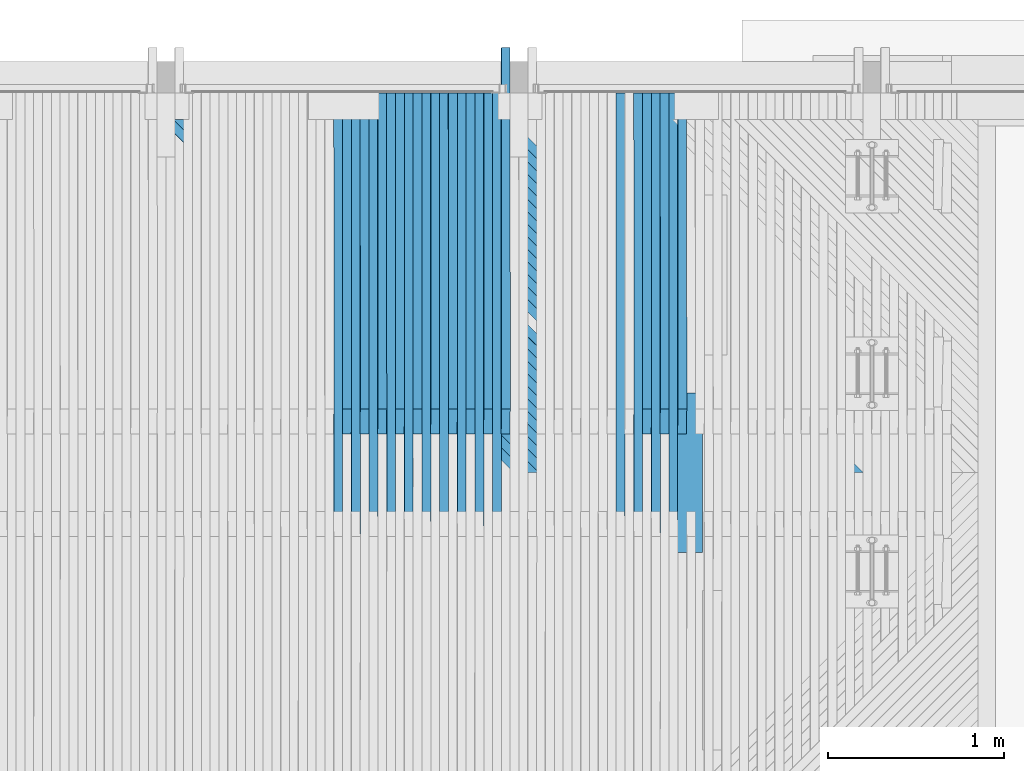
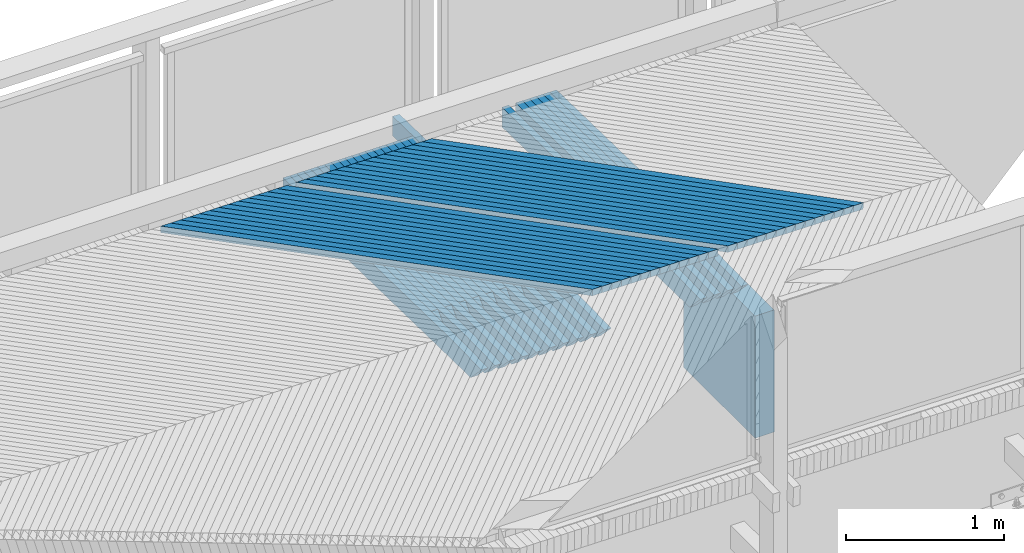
# One storey, part 44 of 65: 55 beams.
"""IFC2X3 building model written with IfcOpenShell, lengths in millimetres."""

from ifc_helpers import new_model, si_unit, frame, origin_with_axes, place, context, subcontext, project, spatial, faceted_brep, material, type_object, element, save


model = new_model("IFC2X3")

# Units and contexts
model_context = context("Model", 3, precision=1e-05, world=origin_with_axes())
body_context = subcontext(model_context, "Body", "Model", "MODEL_VIEW")
ifc_project = project(units=[si_unit("LENGTHUNIT", "METRE", prefix="MILLI"), si_unit("AREAUNIT", "SQUARE_METRE"), si_unit("VOLUMEUNIT", "CUBIC_METRE"), si_unit("MASSUNIT", "GRAM", prefix="KILO"), si_unit("TIMEUNIT", "SECOND"), si_unit("PLANEANGLEUNIT", "RADIAN"), si_unit("SOLIDANGLEUNIT", "STERADIAN"), si_unit("THERMODYNAMICTEMPERATUREUNIT", "DEGREE_CELSIUS"), si_unit("LUMINOUSINTENSITYUNIT", "LUMEN")], contexts=[model_context])

# Site, building, storey
site_placement = place(None, origin_with_axes())
site = spatial("IfcSite", under=ifc_project, at=site_placement, Name="Undefined", CompositionType="ELEMENT")
building_placement = place(site_placement, origin_with_axes())
building = spatial("IfcBuilding", under=site, at=building_placement, Name="Undefined", CompositionType="ELEMENT")
storey_placement = place(building_placement, origin_with_axes())
storey = spatial("IfcBuildingStorey", under=building, at=storey_placement, Name="Undefined", CompositionType="ELEMENT", Elevation=0.0)

# Beams
ifc_material = material(Name="TIMBER/Timber_Undefined")
beam_type_1 = type_object("IfcBeamType", Name="945*140", PredefinedType="NOTDEFINED")
beam_1_placement = place(storey_placement, frame((14969.0, 22817.5, 2502.2279002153), z_axis=(0.0, 0.0, 1.0), x_axis=(0.0, -1.0, 0.0)))
element("IfcBeam", 1, at=beam_1_placement, inside=storey, type_object=beam_type_1, material=ifc_material, Name="PALKKI", ObjectType="945*140", context=body_context, shape_type="Brep", body=[
    faceted_brep([(0.0, 70.0, -472.5), (0.0, 70.0, 472.5), (905.0, 70.0, 472.5), (905.0, 70.0, -472.5), (0.0, -70.0, 472.5), (905.0, -70.0, 472.5), (0.0, -70.0, -472.5), (905.0, -70.0, -472.5)], [[[0, 1, 2, 3]], [[1, 4, 5, 2]], [[4, 6, 7, 5]], [[6, 0, 3, 7]], [[5, 7, 3, 2]], [[6, 4, 1, 0]]]),
])
beam_type_2 = type_object("IfcBeamType", Name="50*50", PredefinedType="NOTDEFINED")
for number, where, z_axis, x_axis, name in (
    (2, (15915.2442465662, 22365.4998996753, 3184.09352561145), (0.706884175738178, 0.706981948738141, -0.0221649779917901), (-0.707238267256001, 0.706948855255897, -0.00611141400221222), "BEAM"),
    (3, (15844.5260699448, 22365.4998996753, 3185.01910211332), (0.706886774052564, 0.706981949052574, -0.0220819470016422), (-0.707237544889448, 0.706948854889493, -0.00619448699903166), "BEAM"),
    (4, (15773.8077850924, 22365.4998996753, 3185.93637200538), (0.706889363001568, 0.70698194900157, -0.021998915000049), (-0.707236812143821, 0.706948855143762, -0.00627756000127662), "BEAM"),
    (5, (15703.0893929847, 22365.4998996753, 3186.8453352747), (0.70689194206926, 0.706981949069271, -0.0219158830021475), (-0.707236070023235, 0.706948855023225, -0.00636063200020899), "BEAM"),
    (6, (15632.3708945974, 22365.4998996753, 3187.74599190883), (0.706894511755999, 0.706981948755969, -0.021832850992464), (-0.707235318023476, 0.706948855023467, -0.00644370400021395), "BEAM"),
    (7, (15561.6522909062, 22365.4998996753, 3188.6383418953), (0.706897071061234, 0.706981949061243, -0.0217498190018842), (-0.707234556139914, 0.706948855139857, -0.00652677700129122), "BEAM"),
    (8, (15490.9335828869, 22365.4998996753, 3189.52238522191), (0.706899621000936, 0.706981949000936, -0.0216667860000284), (-0.707233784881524, 0.706948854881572, -0.00660984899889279), "BEAM"),
    (9, (15420.2147715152, 22365.4998996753, 3190.39812187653), (0.706902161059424, 0.706981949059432, -0.0215837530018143), (-0.707233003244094, 0.706948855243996, -0.00669292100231), "BEAM"),
    (10, (15349.4958577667, 22365.4998996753, 3191.26555184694), (0.706904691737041, 0.706981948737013, -0.021500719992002), (-0.707232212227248, 0.706948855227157, -0.00677599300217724), "BEAM"),
    (11, (15278.7768426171, 22365.4998996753, 3192.12467512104), (0.706907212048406, 0.706981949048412, -0.0214176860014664), (-0.707231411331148, 0.706948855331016, -0.0068590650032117), "BEAM"),
    (12, (15208.0577270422, 22365.4998996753, 3192.97549168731), (0.706909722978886, 0.706981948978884, -0.0213346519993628), (-0.707230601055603, 0.706948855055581, -0.00694213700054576), "BEAM"),
    (13, (15137.3385120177, 22365.4998996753, 3193.81800153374), (0.706912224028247, 0.706981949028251, -0.021251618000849), (-0.70722978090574, 0.706948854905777, -0.00702520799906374), "BEAM"),
    (14, (15066.6191985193, 22365.4998996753, 3194.65220464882), (0.706914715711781, 0.706981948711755, -0.0211685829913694), (-0.707228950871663, 0.706948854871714, -0.00710827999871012), "BEAM"),
    (15, (14995.8997875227, 22365.4998996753, 3195.47810102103), (0.706917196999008, 0.706981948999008, -0.0210855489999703), (-0.707228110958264, 0.706948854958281, -0.00719135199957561), "BEAM"),
    (16, (14854.4606769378, 22365.4998996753, 3197.1049734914), (0.706922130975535, 0.706981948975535, -0.0209194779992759), (-0.707226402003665, 0.706948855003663, -0.00735749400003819), "BEAM"),
    (17, (14783.740979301, 22365.4998996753, 3197.90594956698), (0.706924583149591, 0.706981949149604, -0.020836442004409), (-0.70722553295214, 0.706948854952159, -0.00744056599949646), "BEAM"),
    (18, (14713.0211880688, 22365.4998996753, 3198.69861885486), (0.706927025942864, 0.706981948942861, -0.0207534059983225), (-0.707224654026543, 0.706948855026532, -0.00752363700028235), "BEAM"),
    (19, (14642.301304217, 22365.4998996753, 3199.4829813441), (0.706929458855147, 0.706981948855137, -0.0206703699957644), (-0.70722376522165, 0.706948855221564, -0.00760670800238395), "BEAM"),
    (20, (14571.5813287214, 22365.4998996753, 3200.25903702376), (0.706931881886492, 0.706981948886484, -0.0205873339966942), (-0.707222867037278, 0.706948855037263, -0.00768977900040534), "BEAM"),
    (21, (14500.8612625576, 22365.4998996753, 3201.02678588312), (0.706934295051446, 0.706981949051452, -0.0205042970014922), (-0.707221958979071, 0.70694885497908, -0.00777284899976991), "BEAM"),
    (22, (14430.1411067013, 22365.4998996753, 3201.78622791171), (0.706936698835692, 0.706981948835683, -0.0204212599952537), (-0.707221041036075, 0.706948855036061, -0.00785592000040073), "BEAM"),
    (23, (14359.4208621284, 22365.4998996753, 3202.53736309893), (0.706939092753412, 0.706981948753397, -0.0203382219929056), (-0.707220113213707, 0.706948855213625, -0.00793899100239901), "BEAM"),
    (24, (14288.7005298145, 22365.4998996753, 3203.28019143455), (0.706941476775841, 0.706981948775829, -0.0202551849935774), (-0.707219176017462, 0.706948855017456, -0.00802206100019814), "BEAM"),
    (25, (14217.9801107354, 22365.4998996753, 3204.01471290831), (0.706943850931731, 0.706981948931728, -0.0201721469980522), (-0.707218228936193, 0.706948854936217, -0.00810513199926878), "BEAM"),
    (26, (14147.2596058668, 22365.4998996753, 3204.74092750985), (0.706946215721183, 0.706981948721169, -0.020089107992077), (-0.707217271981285, 0.706948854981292, -0.00818820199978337), "BEAM"),
    (27, (14076.5390161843, 22365.4998996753, 3205.45883522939), (0.706948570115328, 0.706981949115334, -0.0200060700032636), (-0.707216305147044, 0.706948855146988, -0.00827127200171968), "BEAM"),
    (28, (14005.8183426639, 22365.4998996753, 3206.16843605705), (0.706950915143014, 0.706981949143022, -0.0199230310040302), (-0.707215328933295, 0.70694885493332, -0.00835434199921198), "BEAM"),
):
    element("IfcBeam", number, at=place(storey_placement, frame(where, z_axis=z_axis, x_axis=x_axis)), inside=storey, type_object=beam_type_2, material=ifc_material, Name=name, ObjectType="50*50", context=body_context, shape_type="Brep", body=[
        faceted_brep([(23.5869248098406, 24.9999999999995, -24.9999999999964), (-26.4154158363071, 24.9999999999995, 24.9999999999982), (2802.92643296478, 25.0, 25.0), (2852.92877373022, 25.0000000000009, -25.0), (-25.0011704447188, -25.0, 24.9999999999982), (2804.34067830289, -25.0, 25.0000000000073), (25.0011701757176, -25.0000000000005, -24.9999999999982), (2854.34301907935, -24.9999999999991, -25.0000000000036)], [[[0, 1, 2, 3]], [[1, 4, 5, 2]], [[4, 6, 7, 5]], [[6, 0, 3, 7]], [[5, 7, 3, 2]], [[6, 4, 1, 0]]]),
    ])
beam_type_3 = type_object("IfcBeamType", Name="150*50", PredefinedType="NOTDEFINED")
beam_2_placement = place(storey_placement, frame((14874.6038632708, 24513.4953923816, 3053.88204159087), z_axis=(0.0113405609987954, 0.0199960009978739, 0.999735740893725), x_axis=(0.000226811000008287, -0.999800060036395, 0.0199947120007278)))
element("IfcBeam", 29, at=beam_2_placement, inside=storey, type_object=beam_type_3, material=ifc_material, Name="BEAM", ObjectType="150*50", context=body_context, shape_type="Brep", body=[
    faceted_brep([(-1.6778358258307e-07, -24.9999999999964, -74.9999999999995), (-1.6778358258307e-07, 25.0000000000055, -75.0), (2375.00494422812, 25.0000000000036, -75.0), (2375.00494447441, -24.9999999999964, -74.9999999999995), (1.67790858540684e-07, -24.9999999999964, 75.0000000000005), (1.67790858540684e-07, 25.0000000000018, 74.9999999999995), (2150.42515052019, 25.0000000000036, 74.9999999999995), (2510.59248715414, 25.0000000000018, 60.5875433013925), (2510.59248714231, -24.9999999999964, 60.5875430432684), (2150.42514405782, -24.9999999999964, 75.0000000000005)], [[[0, 1, 2, 3]], [[0, 4, 5, 1]], [[2, 1, 5, 6, 7]], [[3, 2, 7, 8]], [[4, 0, 3, 8, 9]], [[5, 4, 9, 6]], [[8, 7, 6, 9]]]),
])
beam_3_placement = place(storey_placement, frame((14924.6205833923, 24513.4953923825, 3053.30636416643), z_axis=(0.0115066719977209, 0.0199960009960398, 0.999733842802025), x_axis=(0.00023013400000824, -0.999800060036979, 0.0199946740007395)))
element("IfcBeam", 30, at=beam_3_placement, inside=storey, type_object=beam_type_3, material=ifc_material, Name="BEAM", ObjectType="150*50", context=body_context, shape_type="Brep", body=[
    faceted_brep([(-1.6778358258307e-07, -24.9999999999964, -74.9999999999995), (1.67790858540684e-07, -24.9999999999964, 75.0000000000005), (1.67790858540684e-07, 25.0000000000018, 74.9999999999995), (-1.6778358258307e-07, 25.0000000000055, -75.0), (1789.96936408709, 24.9999999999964, 75.0), (1928.42646328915, 24.9999999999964, -75.0), (1928.42646353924, -25.0, -75.0000000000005), (1789.96936433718, -25.0000000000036, 74.9999999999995)], [[[0, 1, 2, 3]], [[3, 2, 4, 5]], [[0, 3, 5, 6]], [[1, 0, 6, 7]], [[2, 1, 7, 4]], [[5, 4, 7, 6]]]),
])
beam_4_placement = place(storey_placement, frame((14774.590259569, 24513.4953923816, 3055.01598487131), z_axis=(0.0111744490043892, 0.0199960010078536, 0.99973761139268), x_axis=(0.000223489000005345, -0.999800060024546, 0.0199947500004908)))
element("IfcBeam", 31, at=beam_4_placement, inside=storey, type_object=beam_type_3, material=ifc_material, Name="BEAM", ObjectType="150*50", context=body_context, shape_type="Brep", body=[
    faceted_brep([(-1.6778358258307e-07, -24.9999999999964, -74.9999999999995), (-1.6778358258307e-07, 25.0000000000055, -75.0), (2375.00494422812, 25.0000000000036, -75.0), (2375.00494447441, -24.9999999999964, -74.9999999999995), (1.67790858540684e-07, -24.9999999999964, 75.0000000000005), (1.67790858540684e-07, 25.0000000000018, 74.9999999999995), (2150.42515052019, 25.0000000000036, 74.9999999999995), (2510.59248715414, 25.0000000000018, 60.5875433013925), (2510.59248714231, -24.9999999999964, 60.5875430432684), (2150.42514405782, -24.9999999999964, 75.0000000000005)], [[[0, 1, 2, 3]], [[0, 4, 5, 1]], [[2, 1, 5, 6, 7]], [[3, 2, 7, 8]], [[4, 0, 3, 8, 9]], [[5, 4, 9, 6]], [[8, 7, 6, 9]]]),
])
beam_5_placement = place(storey_placement, frame((14824.6070746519, 24513.4953923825, 3054.44861800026), z_axis=(0.0113405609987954, 0.0199960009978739, 0.999735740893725), x_axis=(0.000226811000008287, -0.999800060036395, 0.0199947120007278)))
element("IfcBeam", 32, at=beam_5_placement, inside=storey, type_object=beam_type_3, material=ifc_material, Name="BEAM", ObjectType="150*50", context=body_context, shape_type="Brep", body=[
    faceted_brep([(-1.6778358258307e-07, -24.9999999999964, -74.9999999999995), (1.67790858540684e-07, -24.9999999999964, 75.0000000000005), (1.67790858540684e-07, 25.0000000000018, 74.9999999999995), (-1.6778358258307e-07, 25.0000000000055, -75.0), (1789.96936408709, 24.9999999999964, 75.0), (1928.42646328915, 24.9999999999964, -75.0), (1928.42646353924, -25.0, -75.0000000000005), (1789.96936433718, -25.0000000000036, 74.9999999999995)], [[[0, 1, 2, 3]], [[3, 2, 4, 5]], [[0, 3, 5, 6]], [[1, 0, 6, 7]], [[2, 1, 7, 4]], [[5, 4, 7, 6]]]),
])
beam_6_placement = place(storey_placement, frame((14674.576468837, 24513.4953923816, 3056.13331034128), z_axis=(0.0110083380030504, 0.0199960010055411, 0.999739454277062), x_axis=(0.000220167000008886, -0.999800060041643, 0.0199947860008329)))
element("IfcBeam", 33, at=beam_6_placement, inside=storey, type_object=beam_type_3, material=ifc_material, Name="BEAM", ObjectType="150*50", context=body_context, shape_type="Brep", body=[
    faceted_brep([(-1.6778358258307e-07, -24.9999999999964, -74.9999999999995), (-1.6778358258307e-07, 25.0000000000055, -75.0), (2375.00494422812, 25.0000000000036, -75.0), (2375.00494447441, -24.9999999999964, -74.9999999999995), (1.67790858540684e-07, -24.9999999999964, 75.0000000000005), (1.67790858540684e-07, 25.0000000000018, 74.9999999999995), (2150.42515052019, 25.0000000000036, 74.9999999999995), (2510.59248715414, 25.0000000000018, 60.5875433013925), (2510.59248714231, -24.9999999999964, 60.5875430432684), (2150.42514405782, -24.9999999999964, 75.0000000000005)], [[[0, 1, 2, 3]], [[0, 4, 5, 1]], [[2, 1, 5, 6, 7]], [[3, 2, 7, 8]], [[4, 0, 3, 8, 9]], [[5, 4, 9, 6]], [[8, 7, 6, 9]]]),
])
beam_7_placement = place(storey_placement, frame((14724.5933775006, 24513.4953923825, 3055.57425403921), z_axis=(0.0111744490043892, 0.0199960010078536, 0.99973761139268), x_axis=(0.000223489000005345, -0.999800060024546, 0.0199947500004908)))
element("IfcBeam", 34, at=beam_7_placement, inside=storey, type_object=beam_type_3, material=ifc_material, Name="BEAM", ObjectType="150*50", context=body_context, shape_type="Brep", body=[
    faceted_brep([(-1.6778358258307e-07, -24.9999999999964, -74.9999999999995), (1.67790858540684e-07, -24.9999999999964, 75.0000000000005), (1.67790858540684e-07, 25.0000000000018, 74.9999999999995), (-1.6778358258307e-07, 25.0000000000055, -75.0), (1789.96936408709, 24.9999999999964, 75.0), (1928.42646328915, 24.9999999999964, -75.0), (1928.42646353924, -25.0, -75.0000000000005), (1789.96936433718, -25.0000000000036, 74.9999999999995)], [[[0, 1, 2, 3]], [[3, 2, 4, 5]], [[0, 3, 5, 6]], [[1, 0, 6, 7]], [[2, 1, 7, 4]], [[5, 4, 7, 6]]]),
])
for number, where, z_axis, x_axis, name in (
    (35, (14574.562493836, 24513.4953923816, 3057.23401797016), (0.0108422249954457, 0.0199960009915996, 0.999741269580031), (0.000216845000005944, -0.999800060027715, 0.0199948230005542), "BEAM"),
    (36, (13875.0597412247, 24513.4953923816, 3064.47376901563), (0.00967943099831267, 0.0199960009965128, 0.999753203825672), (0.000193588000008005, -0.999800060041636, 0.0199950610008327), "BEAM"),
    (37, (13775.0443914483, 24513.4953923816, 3065.44163255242), (0.00951331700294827, 0.0199960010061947, 0.999754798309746), (0.000190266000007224, -0.999800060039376, 0.0199950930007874), "BEAM"),
):
    element("IfcBeam", number, at=place(storey_placement, frame(where, z_axis=z_axis, x_axis=x_axis)), inside=storey, type_object=beam_type_3, material=ifc_material, Name=name, ObjectType="150*50", context=body_context, shape_type="Brep", body=[
        faceted_brep([(-1.6778358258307e-07, -24.9999999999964, -74.9999999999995), (-1.6778358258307e-07, 25.0000000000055, -75.0), (2375.00494422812, 25.0000000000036, -75.0), (2375.00494447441, -24.9999999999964, -74.9999999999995), (1.67790858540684e-07, -24.9999999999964, 75.0000000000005), (1.67790858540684e-07, 25.0000000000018, 74.9999999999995), (2150.42515052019, 25.0000000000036, 74.9999999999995), (2510.59248715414, 25.0000000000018, 60.5875433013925), (2510.59248714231, -24.9999999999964, 60.5875430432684), (2150.42514405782, -24.9999999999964, 75.0000000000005)], [[[0, 1, 2, 3]], [[0, 4, 5, 1]], [[2, 1, 5, 6, 7]], [[3, 2, 7, 8]], [[4, 0, 3, 8, 9]], [[5, 4, 9, 6]], [[8, 7, 6, 9]]]),
    ])
beam_8_placement = place(storey_placement, frame((13825.062080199, 24513.4953923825, 3064.95737203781), z_axis=(0.00967943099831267, 0.0199960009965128, 0.999753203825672), x_axis=(0.000193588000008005, -0.999800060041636, 0.0199950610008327)))
element("IfcBeam", 38, at=beam_8_placement, inside=storey, type_object=beam_type_3, material=ifc_material, Name="BEAM", ObjectType="150*50", context=body_context, shape_type="Brep", body=[
    faceted_brep([(-1.6778358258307e-07, -24.9999999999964, -74.9999999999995), (1.67790858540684e-07, -24.9999999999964, 75.0000000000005), (1.67790858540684e-07, 25.0000000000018, 74.9999999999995), (-1.6778358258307e-07, 25.0000000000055, -75.0), (1789.96936408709, 24.9999999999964, 75.0), (1928.42646328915, 24.9999999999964, -75.0), (1928.42646353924, -25.0, -75.0000000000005), (1789.96936433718, -25.0000000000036, 74.9999999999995)], [[[0, 1, 2, 3]], [[3, 2, 4, 5]], [[0, 3, 5, 6]], [[1, 0, 6, 7]], [[2, 1, 7, 4]], [[5, 4, 7, 6]]]),
])
beam_9_placement = place(storey_placement, frame((13675.0288822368, 24513.4953923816, 3066.39287799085), z_axis=(0.00934720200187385, 0.0199960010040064, 0.999756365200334), x_axis=(0.000186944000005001, -0.999800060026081, 0.0199951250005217)))
element("IfcBeam", 39, at=beam_9_placement, inside=storey, type_object=beam_type_3, material=ifc_material, Name="BEAM", ObjectType="150*50", context=body_context, shape_type="Brep", body=[
    faceted_brep([(-1.6778358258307e-07, -24.9999999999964, -74.9999999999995), (-1.6778358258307e-07, 25.0000000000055, -75.0), (2375.00494422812, 25.0000000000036, -75.0), (2375.00494447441, -24.9999999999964, -74.9999999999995), (1.67790858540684e-07, -24.9999999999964, 75.0000000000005), (1.67790858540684e-07, 25.0000000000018, 74.9999999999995), (2150.42515052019, 25.0000000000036, 74.9999999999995), (2510.59248715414, 25.0000000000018, 60.5875433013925), (2510.59248714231, -24.9999999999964, 60.5875430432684), (2150.42514405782, -24.9999999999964, 75.0000000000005)], [[[0, 1, 2, 3]], [[0, 4, 5, 1]], [[2, 1, 5, 6, 7]], [[3, 2, 7, 8]], [[4, 0, 3, 8, 9]], [[5, 4, 9, 6]], [[8, 7, 6, 9]]]),
])
beam_10_placement = place(storey_placement, frame((13725.0466507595, 24513.4953923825, 3065.91692818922), z_axis=(0.00951331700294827, 0.0199960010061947, 0.999754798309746), x_axis=(0.000190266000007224, -0.999800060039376, 0.0199950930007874)))
element("IfcBeam", 40, at=beam_10_placement, inside=storey, type_object=beam_type_3, material=ifc_material, Name="BEAM", ObjectType="150*50", context=body_context, shape_type="Brep", body=[
    faceted_brep([(-1.6778358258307e-07, -24.9999999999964, -74.9999999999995), (1.67790858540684e-07, -24.9999999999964, 75.0000000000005), (1.67790858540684e-07, 25.0000000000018, 74.9999999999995), (-1.6778358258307e-07, 25.0000000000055, -75.0), (1789.96936408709, 24.9999999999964, 75.0), (1928.42646328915, 24.9999999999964, -75.0), (1928.42646353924, -25.0, -75.0000000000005), (1789.96936433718, -25.0000000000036, 74.9999999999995)], [[[0, 1, 2, 3]], [[3, 2, 4, 5]], [[0, 3, 5, 6]], [[1, 0, 6, 7]], [[2, 1, 7, 4]], [[5, 4, 7, 6]]]),
])
beam_11_placement = place(storey_placement, frame((13575.0132163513, 24513.4953923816, 3067.32750530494), z_axis=(0.00918108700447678, 0.0199960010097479, 0.999757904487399), x_axis=(0.000183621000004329, -0.999800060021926, 0.0199951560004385)))
element("IfcBeam", 41, at=beam_11_placement, inside=storey, type_object=beam_type_3, material=ifc_material, Name="BEAM", ObjectType="150*50", context=body_context, shape_type="Brep", body=[
    faceted_brep([(-1.6778358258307e-07, -24.9999999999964, -74.9999999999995), (-1.6778358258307e-07, 25.0000000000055, -75.0), (2375.00494422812, 25.0000000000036, -75.0), (2375.00494447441, -24.9999999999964, -74.9999999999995), (1.67790858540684e-07, -24.9999999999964, 75.0000000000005), (1.67790858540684e-07, 25.0000000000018, 74.9999999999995), (2150.42515052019, 25.0000000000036, 74.9999999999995), (2510.59248715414, 25.0000000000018, 60.5875433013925), (2510.59248714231, -24.9999999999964, 60.5875430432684), (2150.42514405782, -24.9999999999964, 75.0000000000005)], [[[0, 1, 2, 3]], [[0, 4, 5, 1]], [[2, 1, 5, 6, 7]], [[3, 2, 7, 8]], [[4, 0, 3, 8, 9]], [[5, 4, 9, 6]], [[8, 7, 6, 9]]]),
])
beam_12_placement = place(storey_placement, frame((13625.0310632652, 24513.4953923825, 3066.85986622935), z_axis=(0.00934720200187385, 0.0199960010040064, 0.999756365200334), x_axis=(0.000186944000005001, -0.999800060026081, 0.0199951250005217)))
element("IfcBeam", 42, at=beam_12_placement, inside=storey, type_object=beam_type_3, material=ifc_material, Name="BEAM", ObjectType="150*50", context=body_context, shape_type="Brep", body=[
    faceted_brep([(-1.6778358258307e-07, -24.9999999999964, -74.9999999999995), (1.67790858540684e-07, -24.9999999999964, 75.0000000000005), (1.67790858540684e-07, 25.0000000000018, 74.9999999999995), (-1.6778358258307e-07, 25.0000000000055, -75.0), (1789.96936408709, 24.9999999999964, 75.0), (1928.42646328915, 24.9999999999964, -75.0), (1928.42646353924, -25.0, -75.0000000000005), (1789.96936433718, -25.0000000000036, 74.9999999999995)], [[[0, 1, 2, 3]], [[3, 2, 4, 5]], [[0, 3, 5, 6]], [[1, 0, 6, 7]], [[2, 1, 7, 4]], [[5, 4, 7, 6]]]),
])
beam_13_placement = place(storey_placement, frame((13474.9973965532, 24513.4953923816, 3068.24551446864), z_axis=(0.00901497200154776, 0.0199960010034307, 0.999759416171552), x_axis=(0.000180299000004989, -0.999800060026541, 0.0199951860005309)))
element("IfcBeam", 43, at=beam_13_placement, inside=storey, type_object=beam_type_3, material=ifc_material, Name="BEAM", ObjectType="150*50", context=body_context, shape_type="Brep", body=[
    faceted_brep([(-1.6778358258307e-07, -24.9999999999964, -74.9999999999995), (-1.6778358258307e-07, 25.0000000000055, -75.0), (2375.00494422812, 25.0000000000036, -75.0), (2375.00494447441, -24.9999999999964, -74.9999999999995), (1.67790858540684e-07, -24.9999999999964, 75.0000000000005), (1.67790858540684e-07, 25.0000000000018, 74.9999999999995), (2150.42515052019, 25.0000000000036, 74.9999999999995), (2510.59248715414, 25.0000000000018, 60.5875433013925), (2510.59248714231, -24.9999999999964, 60.5875430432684), (2150.42514405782, -24.9999999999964, 75.0000000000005)], [[[0, 1, 2, 3]], [[0, 4, 5, 1]], [[2, 1, 5, 6, 7]], [[3, 2, 7, 8]], [[4, 0, 3, 8, 9]], [[5, 4, 9, 6]], [[8, 7, 6, 9]]]),
])
beam_14_placement = place(storey_placement, frame((13525.0153204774, 24513.4953923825, 3067.78618613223), z_axis=(0.00918108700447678, 0.0199960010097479, 0.999757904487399), x_axis=(0.000183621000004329, -0.999800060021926, 0.0199951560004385)))
element("IfcBeam", 44, at=beam_14_placement, inside=storey, type_object=beam_type_3, material=ifc_material, Name="BEAM", ObjectType="150*50", context=body_context, shape_type="Brep", body=[
    faceted_brep([(-1.6778358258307e-07, -24.9999999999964, -74.9999999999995), (1.67790858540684e-07, -24.9999999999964, 75.0000000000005), (1.67790858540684e-07, 25.0000000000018, 74.9999999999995), (-1.6778358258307e-07, 25.0000000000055, -75.0), (1789.96936408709, 24.9999999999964, 75.0), (1928.42646328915, 24.9999999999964, -75.0), (1928.42646353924, -25.0, -75.0000000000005), (1789.96936433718, -25.0000000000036, 74.9999999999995)], [[[0, 1, 2, 3]], [[3, 2, 4, 5]], [[0, 3, 5, 6]], [[1, 0, 6, 7]], [[2, 1, 7, 4]], [[5, 4, 7, 6]]]),
])
beam_15_placement = place(storey_placement, frame((13374.9814256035, 24513.4953923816, 3069.1469054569), z_axis=(0.00884885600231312, 0.0199960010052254, 0.999760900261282), x_axis=(0.000176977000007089, -0.999800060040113, 0.0199952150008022)))
element("IfcBeam", 45, at=beam_15_placement, inside=storey, type_object=beam_type_3, material=ifc_material, Name="BEAM", ObjectType="150*50", context=body_context, shape_type="Brep", body=[
    faceted_brep([(-1.6778358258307e-07, -24.9999999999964, -74.9999999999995), (-1.6778358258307e-07, 25.0000000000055, -75.0), (2375.00494422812, 25.0000000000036, -75.0), (2375.00494447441, -24.9999999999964, -74.9999999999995), (1.67790858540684e-07, -24.9999999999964, 75.0000000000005), (1.67790858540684e-07, 25.0000000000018, 74.9999999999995), (2150.42515052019, 25.0000000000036, 74.9999999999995), (2510.59248715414, 25.0000000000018, 60.5875433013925), (2510.59248714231, -24.9999999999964, 60.5875430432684), (2150.42514405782, -24.9999999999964, 75.0000000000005)], [[[0, 1, 2, 3]], [[0, 4, 5, 1]], [[2, 1, 5, 6, 7]], [[3, 2, 7, 8]], [[4, 0, 3, 8, 9]], [[5, 4, 9, 6]], [[8, 7, 6, 9]]]),
])
beam_16_placement = place(storey_placement, frame((13424.9994251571, 24513.4953923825, 3068.69588787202), z_axis=(0.00901497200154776, 0.0199960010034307, 0.999759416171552), x_axis=(0.000180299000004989, -0.999800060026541, 0.0199951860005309)))
element("IfcBeam", 46, at=beam_16_placement, inside=storey, type_object=beam_type_3, material=ifc_material, Name="BEAM", ObjectType="150*50", context=body_context, shape_type="Brep", body=[
    faceted_brep([(-1.6778358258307e-07, -24.9999999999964, -74.9999999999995), (1.67790858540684e-07, -24.9999999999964, 75.0000000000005), (1.67790858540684e-07, 25.0000000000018, 74.9999999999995), (-1.6778358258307e-07, 25.0000000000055, -75.0), (1789.96936408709, 24.9999999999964, 75.0), (1928.42646328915, 24.9999999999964, -75.0), (1928.42646353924, -25.0, -75.0000000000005), (1789.96936433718, -25.0000000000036, 74.9999999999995)], [[[0, 1, 2, 3]], [[3, 2, 4, 5]], [[0, 3, 5, 6]], [[1, 0, 6, 7]], [[2, 1, 7, 4]], [[5, 4, 7, 6]]]),
])
beam_17_placement = place(storey_placement, frame((13274.9653062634, 24513.4953923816, 3070.03167824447), z_axis=(0.00868274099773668, 0.019996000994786, 0.999762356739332), x_axis=(0.000173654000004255, -0.999800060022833, 0.0199952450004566)))
element("IfcBeam", 47, at=beam_17_placement, inside=storey, type_object=beam_type_3, material=ifc_material, Name="BEAM", ObjectType="150*50", context=body_context, shape_type="Brep", body=[
    faceted_brep([(-1.6778358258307e-07, -24.9999999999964, -74.9999999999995), (-1.6778358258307e-07, 25.0000000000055, -75.0), (2375.00494422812, 25.0000000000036, -75.0), (2375.00494447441, -24.9999999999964, -74.9999999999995), (1.67790858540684e-07, -24.9999999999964, 75.0000000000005), (1.67790858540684e-07, 25.0000000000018, 74.9999999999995), (2150.42515052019, 25.0000000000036, 74.9999999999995), (2510.59248715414, 25.0000000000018, 60.5875433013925), (2510.59248714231, -24.9999999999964, 60.5875430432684), (2150.42514405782, -24.9999999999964, 75.0000000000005)], [[[0, 1, 2, 3]], [[0, 4, 5, 1]], [[2, 1, 5, 6, 7]], [[3, 2, 7, 8]], [[4, 0, 3, 8, 9]], [[5, 4, 9, 6]], [[8, 7, 6, 9]]]),
])
beam_18_placement = place(storey_placement, frame((13324.9833800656, 24513.4953923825, 3069.5889714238), z_axis=(0.00884885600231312, 0.0199960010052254, 0.999760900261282), x_axis=(0.000176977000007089, -0.999800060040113, 0.0199952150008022)))
element("IfcBeam", 48, at=beam_18_placement, inside=storey, type_object=beam_type_3, material=ifc_material, Name="BEAM", ObjectType="150*50", context=body_context, shape_type="Brep", body=[
    faceted_brep([(-1.6778358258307e-07, -24.9999999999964, -74.9999999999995), (1.67790858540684e-07, -24.9999999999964, 75.0000000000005), (1.67790858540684e-07, 25.0000000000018, 74.9999999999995), (-1.6778358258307e-07, 25.0000000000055, -75.0), (1789.96936408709, 24.9999999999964, 75.0), (1928.42646328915, 24.9999999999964, -75.0), (1928.42646353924, -25.0, -75.0000000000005), (1789.96936433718, -25.0000000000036, 74.9999999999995)], [[[0, 1, 2, 3]], [[3, 2, 4, 5]], [[0, 3, 5, 6]], [[1, 0, 6, 7]], [[2, 1, 7, 4]], [[5, 4, 7, 6]]]),
])
beam_19_placement = place(storey_placement, frame((13174.9490412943, 24513.4953923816, 3070.89983280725), z_axis=(0.00851662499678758, 0.0199960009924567, 0.999763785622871), x_axis=(0.000170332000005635, -0.999800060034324, 0.0199952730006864)))
element("IfcBeam", 49, at=beam_19_placement, inside=storey, type_object=beam_type_3, material=ifc_material, Name="BEAM", ObjectType="150*50", context=body_context, shape_type="Brep", body=[
    faceted_brep([(-1.6778358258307e-07, -24.9999999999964, -74.9999999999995), (-1.6778358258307e-07, 25.0000000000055, -75.0), (2375.00494422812, 25.0000000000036, -75.0), (2375.00494447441, -24.9999999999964, -74.9999999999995), (1.67790858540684e-07, -24.9999999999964, 75.0000000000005), (1.67790858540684e-07, 25.0000000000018, 74.9999999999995), (2150.42515052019, 25.0000000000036, 74.9999999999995), (2510.59248715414, 25.0000000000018, 60.5875433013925), (2510.59248714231, -24.9999999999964, 60.5875430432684), (2150.42514405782, -24.9999999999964, 75.0000000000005)], [[[0, 1, 2, 3]], [[0, 4, 5, 1]], [[2, 1, 5, 6, 7]], [[3, 2, 7, 8]], [[4, 0, 3, 8, 9]], [[5, 4, 9, 6]], [[8, 7, 6, 9]]]),
])
beam_20_placement = place(storey_placement, frame((13224.9671879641, 24513.4953923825, 3070.4654367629), z_axis=(0.00868274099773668, 0.019996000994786, 0.999762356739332), x_axis=(0.000173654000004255, -0.999800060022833, 0.0199952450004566)))
element("IfcBeam", 50, at=beam_20_placement, inside=storey, type_object=beam_type_3, material=ifc_material, Name="BEAM", ObjectType="150*50", context=body_context, shape_type="Brep", body=[
    faceted_brep([(-1.6778358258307e-07, -24.9999999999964, -74.9999999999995), (1.67790858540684e-07, -24.9999999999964, 75.0000000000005), (1.67790858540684e-07, 25.0000000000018, 74.9999999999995), (-1.6778358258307e-07, 25.0000000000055, -75.0), (1789.96936408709, 24.9999999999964, 75.0), (1928.42646328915, 24.9999999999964, -75.0), (1928.42646353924, -25.0, -75.0000000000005), (1789.96936433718, -25.0000000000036, 74.9999999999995)], [[[0, 1, 2, 3]], [[3, 2, 4, 5]], [[0, 3, 5, 6]], [[1, 0, 6, 7]], [[2, 1, 7, 4]], [[5, 4, 7, 6]]]),
])
beam_21_placement = place(storey_placement, frame((13074.9326334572, 24513.4953923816, 3071.75136912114), z_axis=(0.00835050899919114, 0.019996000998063, 0.999765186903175), x_axis=(0.000167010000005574, -0.999800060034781, 0.0199953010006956)))
element("IfcBeam", 51, at=beam_21_placement, inside=storey, type_object=beam_type_3, material=ifc_material, Name="BEAM", ObjectType="150*50", context=body_context, shape_type="Brep", body=[
    faceted_brep([(-1.6778358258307e-07, -24.9999999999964, -74.9999999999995), (-1.6778358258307e-07, 25.0000000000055, -75.0), (2375.00494422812, 25.0000000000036, -75.0), (2375.00494447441, -24.9999999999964, -74.9999999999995), (1.67790858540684e-07, -24.9999999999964, 75.0000000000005), (1.67790858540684e-07, 25.0000000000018, 74.9999999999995), (2150.42515052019, 25.0000000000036, 74.9999999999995), (2510.59248715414, 25.0000000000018, 60.5875433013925), (2510.59248714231, -24.9999999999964, 60.5875430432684), (2150.42514405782, -24.9999999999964, 75.0000000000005)], [[[0, 1, 2, 3]], [[0, 4, 5, 1]], [[2, 1, 5, 6, 7]], [[3, 2, 7, 8]], [[4, 0, 3, 8, 9]], [[5, 4, 9, 6]], [[8, 7, 6, 9]]]),
])
beam_22_placement = place(storey_placement, frame((13124.9508516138, 24513.4953923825, 3071.32528386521), z_axis=(0.00851662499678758, 0.0199960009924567, 0.999763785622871), x_axis=(0.000170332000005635, -0.999800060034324, 0.0199952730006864)))
element("IfcBeam", 52, at=beam_22_placement, inside=storey, type_object=beam_type_3, material=ifc_material, Name="BEAM", ObjectType="150*50", context=body_context, shape_type="Brep", body=[
    faceted_brep([(-1.6778358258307e-07, -24.9999999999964, -74.9999999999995), (1.67790858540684e-07, -24.9999999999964, 75.0000000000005), (1.67790858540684e-07, 25.0000000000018, 74.9999999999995), (-1.6778358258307e-07, 25.0000000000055, -75.0), (1789.96936408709, 24.9999999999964, 75.0), (1928.42646328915, 24.9999999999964, -75.0), (1928.42646353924, -25.0, -75.0000000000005), (1789.96936433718, -25.0000000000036, 74.9999999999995)], [[[0, 1, 2, 3]], [[3, 2, 4, 5]], [[0, 3, 5, 6]], [[1, 0, 6, 7]], [[2, 1, 7, 4]], [[5, 4, 7, 6]]]),
])
beam_23_placement = place(storey_placement, frame((12974.9160855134, 24513.4953923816, 3072.5862871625), z_axis=(0.00818439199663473, 0.0199960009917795, 0.999766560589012), x_axis=(0.000163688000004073, -0.999800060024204, 0.019995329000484)))
element("IfcBeam", 53, at=beam_23_placement, inside=storey, type_object=beam_type_3, material=ifc_material, Name="BEAM", ObjectType="150*50", context=body_context, shape_type="Brep", body=[
    faceted_brep([(-1.6778358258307e-07, -24.9999999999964, -74.9999999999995), (-1.6778358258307e-07, 25.0000000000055, -75.0), (2375.00494422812, 25.0000000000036, -75.0), (2375.00494447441, -24.9999999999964, -74.9999999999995), (1.67790858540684e-07, -24.9999999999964, 75.0000000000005), (1.67790858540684e-07, 25.0000000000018, 74.9999999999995), (2150.42515052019, 25.0000000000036, 74.9999999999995), (2510.59248715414, 25.0000000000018, 60.5875433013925), (2510.59248714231, -24.9999999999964, 60.5875430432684), (2150.42514405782, -24.9999999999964, 75.0000000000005)], [[[0, 1, 2, 3]], [[0, 4, 5, 1]], [[2, 1, 5, 6, 7]], [[3, 2, 7, 8]], [[4, 0, 3, 8, 9]], [[5, 4, 9, 6]], [[8, 7, 6, 9]]]),
])
beam_24_placement = place(storey_placement, frame((13024.9343737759, 24513.4953923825, 3072.16851270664), z_axis=(0.00835050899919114, 0.019996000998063, 0.999765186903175), x_axis=(0.000167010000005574, -0.999800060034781, 0.0199953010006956)))
element("IfcBeam", 54, at=beam_24_placement, inside=storey, type_object=beam_type_3, material=ifc_material, Name="BEAM", ObjectType="150*50", context=body_context, shape_type="Brep", body=[
    faceted_brep([(-1.6778358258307e-07, -24.9999999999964, -74.9999999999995), (1.67790858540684e-07, -24.9999999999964, 75.0000000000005), (1.67790858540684e-07, 25.0000000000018, 74.9999999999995), (-1.6778358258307e-07, 25.0000000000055, -75.0), (1789.96936408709, 24.9999999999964, 75.0), (1928.42646328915, 24.9999999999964, -75.0), (1928.42646353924, -25.0, -75.0000000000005), (1789.96936433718, -25.0000000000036, 74.9999999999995)], [[[0, 1, 2, 3]], [[3, 2, 4, 5]], [[0, 3, 5, 6]], [[1, 0, 6, 7]], [[2, 1, 7, 4]], [[5, 4, 7, 6]]]),
])
beam_25_placement = place(storey_placement, frame((13924.690260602, 24771.443807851, 3058.82354862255), z_axis=(0.00984432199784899, 0.0199960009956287, 0.999751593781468), x_axis=(0.000196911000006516, -0.999800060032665, 0.0199950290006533)))
element("IfcBeam", 55, at=beam_25_placement, inside=storey, type_object=beam_type_3, material=ifc_material, Name="BEAM", ObjectType="150*50", context=body_context, shape_type="Brep", body=[
    faceted_brep([(-1.6778358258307e-07, -24.9999999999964, -74.9999999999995), (1.67790858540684e-07, -24.9999999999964, 75.0000000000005), (1.67790858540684e-07, 25.0000000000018, 74.9999999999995), (-1.6778358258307e-07, 25.0000000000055, -75.0), (2047.9693678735, 24.9999999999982, 75.0), (2186.42646676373, 24.9999999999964, -74.9999999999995), (2186.42645144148, -25.0000000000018, -75.0), (2047.96935255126, -25.0000000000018, 75.0000000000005)], [[[0, 1, 2, 3]], [[3, 2, 4, 5]], [[0, 3, 5, 6]], [[1, 0, 6, 7]], [[2, 1, 7, 4]], [[5, 4, 7, 6]]]),
])

save(model, "model.ifc")
